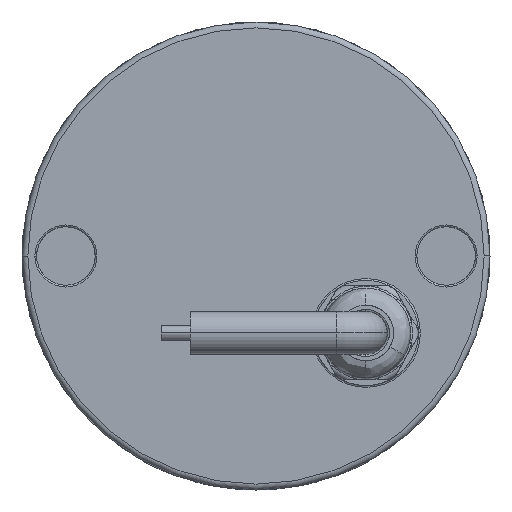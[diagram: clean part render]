
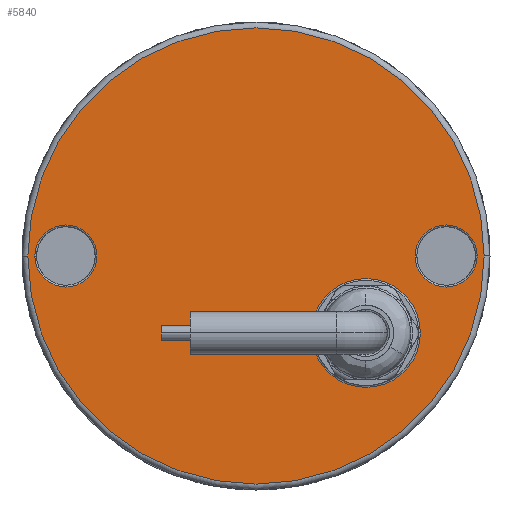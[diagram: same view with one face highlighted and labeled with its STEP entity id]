
A CAD part, left-side view. The second image highlights one B-rep face of the part: STEP entity #5840.
In plain terms, the highlighted planar face has unit normal (-1, 0, 0) as drawn and (0, 0, 1) by its records, which use the part's own axes.
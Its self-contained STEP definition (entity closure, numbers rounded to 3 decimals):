
#374 = CARTESIAN_POINT ( 'NONE',  ( -37.8, 0., 10. ) ) ;
#470 = VERTEX_POINT ( 'NONE', #6636 ) ;
#544 = AXIS2_PLACEMENT_3D ( 'NONE', #4308, #1253, #2140 ) ;
#664 = DIRECTION ( 'NONE',  ( 0., 0., 1. ) ) ;
#864 = DIRECTION ( 'NONE',  ( 0., 0., -1. ) ) ;
#959 = EDGE_LOOP ( 'NONE', ( #10211, #11279 ) ) ;
#1025 = DIRECTION ( 'NONE',  ( 0., 0., 1. ) ) ;
#1253 = DIRECTION ( 'NONE',  ( 0., 0., -1. ) ) ;
#1283 = CARTESIAN_POINT ( 'NONE',  ( -32.5, 0., 10. ) ) ;
#1306 = CARTESIAN_POINT ( 'NONE',  ( -39., 0., 10. ) ) ;
#1369 = FACE_OUTER_BOUND ( 'NONE', #959, .T. ) ;
#1823 = ORIENTED_EDGE ( 'NONE', *, *, #9035, .T. ) ;
#1876 = EDGE_LOOP ( 'NONE', ( #2758, #5442 ) ) ;
#1949 = ORIENTED_EDGE ( 'NONE', *, *, #9358, .T. ) ;
#2140 = DIRECTION ( 'NONE',  ( 1., 0., 0. ) ) ;
#2464 = ORIENTED_EDGE ( 'NONE', *, *, #3572, .T. ) ;
#2485 = DIRECTION ( 'NONE',  ( 1., 0., 0. ) ) ;
#2577 = EDGE_CURVE ( 'NONE', #10197, #470, #6642, .T. ) ;
#2758 = ORIENTED_EDGE ( 'NONE', *, *, #10132, .T. ) ;
#2779 = VERTEX_POINT ( 'NONE', #11406 ) ;
#2822 = AXIS2_PLACEMENT_3D ( 'NONE', #7255, #1025, #3181 ) ;
#2885 = DIRECTION ( 'NONE',  ( 1., 0., 0. ) ) ;
#3014 = FACE_BOUND ( 'NONE', #12471, .T. ) ;
#3181 = DIRECTION ( 'NONE',  ( 1., 0., 0. ) ) ;
#3222 = DIRECTION ( 'NONE',  ( 1., 0., 0. ) ) ;
#3475 = VERTEX_POINT ( 'NONE', #3484 ) ;
#3484 = CARTESIAN_POINT ( 'NONE',  ( -27.2, 0., 10. ) ) ;
#3572 = EDGE_CURVE ( 'NONE', #13358, #3475, #11302, .T. ) ;
#4131 = FACE_BOUND ( 'NONE', #1876, .T. ) ;
#4308 = CARTESIAN_POINT ( 'NONE',  ( 32.5, 0., 10. ) ) ;
#4383 = CARTESIAN_POINT ( 'NONE',  ( 39., 0., 10. ) ) ;
#4497 = CIRCLE ( 'NONE', #544, 5.3 ) ;
#4518 = VERTEX_POINT ( 'NONE', #1306 ) ;
#4699 = EDGE_CURVE ( 'NONE', #4518, #10409, #7521, .T. ) ;
#4706 = CIRCLE ( 'NONE', #8669, 9.3 ) ;
#5150 = CIRCLE ( 'NONE', #5768, 39. ) ;
#5261 = CARTESIAN_POINT ( 'NONE',  ( 27.2, 0., 10. ) ) ;
#5442 = ORIENTED_EDGE ( 'NONE', *, *, #2577, .T. ) ;
#5768 = AXIS2_PLACEMENT_3D ( 'NONE', #7433, #6465, #3222 ) ;
#5791 = AXIS2_PLACEMENT_3D ( 'NONE', #11811, #7641, #2485 ) ;
#5840 = ADVANCED_FACE ( 'NONE', ( #4131, #3014, #8181, #1369 ), #6214, .T. ) ;
#6182 = VERTEX_POINT ( 'NONE', #11377 ) ;
#6214 = PLANE ( 'NONE',  #2822 ) ;
#6238 = AXIS2_PLACEMENT_3D ( 'NONE', #11982, #664, #7887 ) ;
#6465 = DIRECTION ( 'NONE',  ( 0., 0., 1. ) ) ;
#6636 = CARTESIAN_POINT ( 'NONE',  ( 37.8, 0., 10. ) ) ;
#6642 = CIRCLE ( 'NONE', #9156, 5.3 ) ;
#7147 = CIRCLE ( 'NONE', #5791, 5.3 ) ;
#7255 = CARTESIAN_POINT ( 'NONE',  ( 0., 0., 10. ) ) ;
#7433 = CARTESIAN_POINT ( 'NONE',  ( 0., 0., 10. ) ) ;
#7470 = ORIENTED_EDGE ( 'NONE', *, *, #11113, .T. ) ;
#7521 = CIRCLE ( 'NONE', #6238, 39. ) ;
#7641 = DIRECTION ( 'NONE',  ( 0., 0., -1. ) ) ;
#7865 = EDGE_CURVE ( 'NONE', #10409, #4518, #5150, .T. ) ;
#7887 = DIRECTION ( 'NONE',  ( 1., 0., 0. ) ) ;
#8137 = CARTESIAN_POINT ( 'NONE',  ( 32.5, 0., 10. ) ) ;
#8181 = FACE_BOUND ( 'NONE', #10640, .T. ) ;
#8381 = CIRCLE ( 'NONE', #12817, 9.3 ) ;
#8486 = DIRECTION ( 'NONE',  ( 1., 0., 0. ) ) ;
#8570 = DIRECTION ( 'NONE',  ( 0., 0., -1. ) ) ;
#8669 = AXIS2_PLACEMENT_3D ( 'NONE', #9232, #864, #2885 ) ;
#9015 = DIRECTION ( 'NONE',  ( 1., 0., 0. ) ) ;
#9035 = EDGE_CURVE ( 'NONE', #6182, #2779, #4706, .T. ) ;
#9051 = CARTESIAN_POINT ( 'NONE',  ( -18.786, 13.154, 10. ) ) ;
#9150 = DIRECTION ( 'NONE',  ( 0., 0., -1. ) ) ;
#9156 = AXIS2_PLACEMENT_3D ( 'NONE', #8137, #9150, #9015 ) ;
#9232 = CARTESIAN_POINT ( 'NONE',  ( -18.786, 13.154, 10. ) ) ;
#9358 = EDGE_CURVE ( 'NONE', #2779, #6182, #8381, .T. ) ;
#10126 = DIRECTION ( 'NONE',  ( 1., 0., 0. ) ) ;
#10132 = EDGE_CURVE ( 'NONE', #470, #10197, #4497, .T. ) ;
#10197 = VERTEX_POINT ( 'NONE', #5261 ) ;
#10211 = ORIENTED_EDGE ( 'NONE', *, *, #7865, .T. ) ;
#10409 = VERTEX_POINT ( 'NONE', #4383 ) ;
#10640 = EDGE_LOOP ( 'NONE', ( #1823, #1949 ) ) ;
#11113 = EDGE_CURVE ( 'NONE', #3475, #13358, #7147, .T. ) ;
#11279 = ORIENTED_EDGE ( 'NONE', *, *, #4699, .T. ) ;
#11302 = CIRCLE ( 'NONE', #11911, 5.3 ) ;
#11377 = CARTESIAN_POINT ( 'NONE',  ( -9.486, 13.154, 10. ) ) ;
#11406 = CARTESIAN_POINT ( 'NONE',  ( -28.086, 13.154, 10. ) ) ;
#11811 = CARTESIAN_POINT ( 'NONE',  ( -32.5, 0., 10. ) ) ;
#11911 = AXIS2_PLACEMENT_3D ( 'NONE', #1283, #8570, #8486 ) ;
#11982 = CARTESIAN_POINT ( 'NONE',  ( 0., 0., 10. ) ) ;
#12094 = DIRECTION ( 'NONE',  ( 0., 0., -1. ) ) ;
#12471 = EDGE_LOOP ( 'NONE', ( #7470, #2464 ) ) ;
#12817 = AXIS2_PLACEMENT_3D ( 'NONE', #9051, #12094, #10126 ) ;
#13358 = VERTEX_POINT ( 'NONE', #374 ) ;
